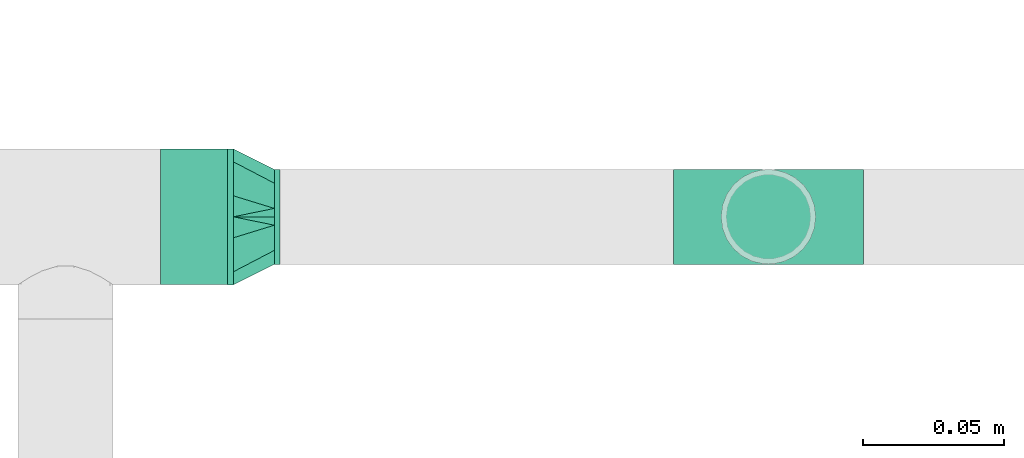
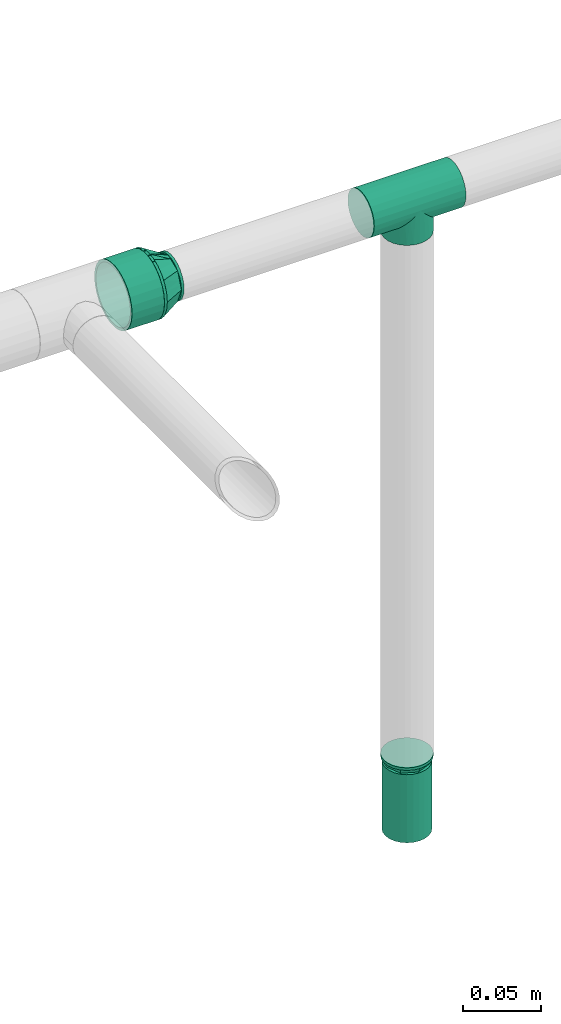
# One storey, part 18 of 45: 3 flow fittings, 1 flow segment, 1 flow terminal.
"""IFC2X3 building model written with IfcOpenShell, lengths in millimetres."""

from ifc_helpers import new_model, entity, si_unit, converted_unit, derived_unit, direction, frame, origin_with_axes, origin_2d_with_axis, place, context, subcontext, project, spatial, hollow_circle, extrude, open_shell, surface_model, source, transform, mapped, type_object, element, save


model = new_model("IFC2X3")

# Units and contexts
model_context = context("Model", 3, precision=0.01, world=frame((0.0, 4.29681676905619e-09, 0.0)), true_north=direction((4.01073788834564e-13, 1.0)))
plan_context = context("Plan", 3, precision=0.01, world=frame((0.0, 4.29681676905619e-09, 0.0)), true_north=direction((4.01073788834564e-13, 1.0)))
body_context = subcontext(model_context, "Body", "Model", "MODEL_VIEW")
ifc_project = project(units=[converted_unit("PLANEANGLEUNIT", "DEGREE", entity("IfcPositiveLengthMeasure", 0.0174532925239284), si_unit("PLANEANGLEUNIT", "RADIAN"), dimensions=[0, 0, 0, 0, 0, 0, 0]), si_unit("AREAUNIT", "SQUARE_METRE"), si_unit("LENGTHUNIT", "METRE", prefix="MILLI"), si_unit("MASSUNIT", "GRAM", prefix="KILO"), si_unit("POWERUNIT", "WATT"), si_unit("PRESSUREUNIT", "PASCAL", prefix="KILO"), si_unit("FORCEUNIT", "NEWTON", prefix="KILO"), si_unit("ELECTRICVOLTAGEUNIT", "VOLT"), si_unit("ELECTRICCURRENTUNIT", "AMPERE"), si_unit("THERMODYNAMICTEMPERATUREUNIT", "DEGREE_CELSIUS"), si_unit("TIMEUNIT", "SECOND"), si_unit("VOLUMEUNIT", "CUBIC_METRE"), derived_unit("LINEARVELOCITYUNIT", [(si_unit("LENGTHUNIT", "METRE"), 1), (si_unit("TIMEUNIT", "SECOND"), -1)]), derived_unit("VOLUMETRICFLOWRATEUNIT", [(si_unit("VOLUMEUNIT", "CUBIC_METRE"), 1), (si_unit("TIMEUNIT", "SECOND"), -1)]), derived_unit("THERMALTRANSMITTANCEUNIT", [(si_unit("POWERUNIT", "WATT"), 1), (si_unit("THERMODYNAMICTEMPERATUREUNIT", "KELVIN"), -1), (si_unit("AREAUNIT", "SQUARE_METRE"), -1)]), derived_unit("SOUNDPRESSUREUNIT", [(si_unit("PRESSUREUNIT", "PASCAL"), 1)])], contexts=[model_context, plan_context])

# Site, building, storey
site_placement = place(None, frame((0.0, -4.29681676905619e-09, 0.0), z_axis=(0.0, 0.0, 1.0), x_axis=(1.0, 0.0, 0.0)))
site = spatial("IfcSite", under=ifc_project, at=site_placement, CompositionType="ELEMENT")
building_placement = place(site_placement, frame((0.0, 4.29681676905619e-09, 0.0), z_axis=(0.0, 0.0, 1.0), x_axis=(1.0, 0.0, 0.0)))
building = spatial("IfcBuilding", under=site, at=building_placement, Name="mc-building", CompositionType="ELEMENT")
storey_placement = place(building_placement, frame((0.0, 0.0, 210200.0), z_axis=(0.0, 0.0, 1.0), x_axis=(1.0, 0.0, 0.0)))
storey = spatial("IfcBuildingStorey", under=building, at=storey_placement, Name="Nivå F - 0,7 m", CompositionType="ELEMENT", Elevation=210200.0)

# Flow fittings
pipe_fitting_type_1 = type_object("IfcPipeFittingType", Name="magi_pipe_fe_tee_centric_90_001", PredefinedType="JUNCTION")
shared_shape_1 = source(origin_with_axes(), body_context, "Body", "SurfaceModel", [
    surface_model("IfcShellBasedSurfaceModel", [(-33.8, 4.37404, -16.32415), (-33.8, 0.0, -16.9), (-33.8, 16.32415, -4.37404), (-33.8, 8.45, -14.63583), (-33.8, 11.9501, -11.9501), (-33.8, 14.63583, -8.45), (-33.8, -16.9, 0.0), (-33.8, -11.9501, -11.9501), (-33.8, -14.63583, -8.45), (-33.8, -8.45, -14.63583), (-33.8, -4.37404, -16.32415), (-33.8, -16.32415, -4.37404), (-33.8, 14.63583, 8.45), (-33.8, 16.32415, 4.37404), (-33.8, -8.45, 14.63583), (-33.8, 8.45, 14.63583), (-33.8, 11.9501, 11.9501), (-33.8, 4.37404, 16.32415), (-33.8, 0.0, 16.9), (-33.8, -11.9501, 11.9501), (-33.8, -14.63583, 8.45), (-33.8, -16.32415, 4.37404), (-33.8, -4.37404, 16.32415), (-33.8, 16.9, 0.0), (33.8, 4.37404, -16.32415), (33.8, -16.9, 0.0), (33.8, 0.0, -16.9), (33.8, 14.63583, -8.45), (33.8, 8.45, -14.63583), (33.8, 16.32415, -4.37404), (33.8, 11.9501, -11.9501), (33.8, -16.32415, 4.37404), (33.8, -8.45, -14.63583), (33.8, -4.37404, -16.32415), (33.8, -11.9501, -11.9501), (33.8, -14.63583, -8.45), (33.8, -16.32415, -4.37404), (33.8, 16.32415, 4.37404), (33.8, 8.45, 14.63583), (33.8, 14.63583, 8.45), (33.8, 11.9501, 11.9501), (33.8, -8.45, 14.63583), (33.8, 4.37404, 16.32415), (33.8, -14.63583, 8.45), (33.8, -11.9501, 11.9501), (33.8, 0.0, 16.9), (33.8, -4.37404, 16.32415), (33.8, 16.9, 0.0), (16.28698, -16.28698, 4.51047), (16.9, -16.9, 0.0), (14.62704, -14.62704, 8.4652), (9.47213, -9.47213, 13.99602), (12.26343, -12.26343, 11.62834), (-16.9, -16.9, 0.0), (-16.28698, -16.28698, 4.51047), (-14.62704, -14.62704, 8.4652), (-12.26343, -12.26343, 11.62834), (-9.47213, -9.47213, 13.99602), (-6.42894, -6.42894, 15.62942), (6.42894, -6.42894, 15.62942), (3.24522, -3.24522, 16.58549), (0.0, 0.0, 16.9), (-3.24522, -3.24522, 16.58549), (3.24522, -3.24522, -16.58549), (0.0, 0.0, -16.9), (-3.24522, -3.24522, -16.58549), (-6.42894, -6.42894, -15.62942), (6.42894, -6.42894, -15.62942), (9.47213, -9.47213, -13.99602), (12.26343, -12.26343, -11.62834), (14.62704, -14.62704, -8.4652), (16.28698, -16.28698, -4.51047), (-9.47213, -9.47213, -13.99602), (-12.26343, -12.26343, -11.62834), (-16.28698, -16.28698, -4.51047), (-14.62704, -14.62704, -8.4652), (4.37404, -25.35, -16.32415), (-16.9, -25.35, 0.0), (0.0, -25.35, -16.9), (14.63583, -25.35, -8.45), (8.45, -25.35, -14.63583), (16.32415, -25.35, -4.37404), (11.9501, -25.35, -11.9501), (-11.9501, -25.35, -11.9501), (-8.45, -25.35, -14.63583), (-4.37404, -25.35, -16.32415), (-14.63583, -25.35, -8.45), (-16.32415, -25.35, -4.37404), (16.9, -25.35, 0.0), (8.45, -25.35, 14.63583), (16.32415, -25.35, 4.37404), (14.63583, -25.35, 8.45), (-8.45, -25.35, 14.63583), (11.9501, -25.35, 11.9501), (4.37404, -25.35, 16.32415), (-16.32415, -25.35, 4.37404), (-11.9501, -25.35, 11.9501), (-14.63583, -25.35, 8.45), (0.0, -25.35, 16.9), (-4.37404, -25.35, 16.32415)], [open_shell([[[0, 1, 2]], [[3, 0, 4]], [[0, 2, 5]], [[4, 0, 5]], [[6, 2, 1]], [[7, 8, 9]], [[1, 10, 9]], [[11, 6, 8]], [[1, 9, 8]], [[1, 8, 6]], [[6, 12, 2]], [[12, 13, 2]], [[14, 12, 6]], [[12, 14, 15]], [[16, 12, 15]], [[17, 15, 18]], [[19, 14, 20]], [[21, 20, 14]], [[22, 18, 14]], [[14, 6, 21]], [[14, 18, 15]], [[23, 2, 13]], [[24, 25, 26]], [[27, 24, 28]], [[27, 29, 24]], [[27, 28, 30]], [[31, 25, 24]], [[26, 32, 33]], [[26, 34, 32]], [[35, 25, 36]], [[35, 34, 26]], [[25, 35, 26]], [[24, 29, 31]], [[29, 37, 38]], [[38, 37, 39]], [[38, 31, 29]], [[38, 39, 40]], [[41, 38, 42]], [[43, 41, 44]], [[41, 43, 31]], [[41, 45, 46]], [[41, 31, 38]], [[42, 45, 41]], [[29, 47, 37]], [[31, 43, 48]], [[25, 31, 49]], [[49, 31, 48]], [[43, 50, 48]], [[44, 41, 51]], [[50, 43, 52]], [[51, 52, 44]], [[52, 43, 44]], [[53, 54, 21]], [[53, 21, 6]], [[21, 54, 20]], [[54, 55, 20]], [[56, 57, 19]], [[19, 20, 56]], [[19, 57, 14]], [[56, 20, 55]], [[14, 57, 58]], [[51, 41, 59]], [[60, 45, 61]], [[59, 46, 60]], [[46, 59, 41]], [[60, 46, 45]], [[61, 45, 42]], [[39, 37, 13]], [[16, 38, 40]], [[12, 40, 39]], [[42, 38, 15]], [[23, 37, 47]], [[62, 61, 18]], [[62, 22, 58]], [[22, 62, 18]], [[58, 22, 14]], [[61, 17, 18]], [[42, 17, 61]], [[15, 17, 42]], [[15, 38, 16]], [[12, 16, 40]], [[13, 12, 39]], [[37, 23, 13]], [[5, 27, 30]], [[23, 47, 29]], [[30, 28, 3]], [[27, 2, 29]], [[26, 33, 63]], [[26, 64, 24]], [[64, 26, 63]], [[28, 24, 0]], [[64, 0, 24]], [[4, 30, 3]], [[2, 27, 5]], [[5, 30, 4]], [[2, 23, 29]], [[65, 66, 10]], [[1, 0, 64]], [[1, 65, 10]], [[66, 9, 10]], [[0, 3, 28]], [[1, 64, 65]], [[63, 33, 67]], [[32, 34, 68]], [[69, 68, 34]], [[35, 70, 69]], [[69, 34, 35]], [[32, 68, 67]], [[36, 25, 49]], [[36, 71, 35]], [[71, 36, 49]], [[35, 71, 70]], [[72, 9, 66]], [[72, 7, 9]], [[7, 72, 73]], [[7, 73, 8]], [[74, 53, 11]], [[75, 74, 8]], [[74, 11, 8]], [[11, 53, 6]], [[75, 8, 73]], [[32, 67, 33]], [[76, 77, 78]], [[79, 76, 80]], [[79, 81, 76]], [[79, 80, 82]], [[77, 76, 81]], [[78, 83, 84]], [[84, 85, 78]], [[86, 77, 87]], [[83, 78, 86]], [[77, 86, 78]], [[81, 88, 77]], [[89, 88, 90]], [[89, 90, 91]], [[92, 77, 89]], [[89, 91, 93]], [[92, 89, 94]], [[95, 96, 97]], [[96, 95, 92]], [[92, 98, 99]], [[95, 77, 92]], [[94, 98, 92]], [[89, 77, 88]], [[77, 95, 53]], [[54, 53, 95]], [[97, 96, 56]], [[96, 92, 57]], [[95, 97, 54]], [[58, 92, 99]], [[55, 54, 97]], [[56, 55, 97]], [[58, 57, 92]], [[98, 61, 62]], [[58, 99, 62]], [[56, 96, 57]], [[62, 99, 98]], [[94, 60, 98]], [[89, 59, 94]], [[91, 90, 48]], [[52, 93, 91]], [[93, 51, 89]], [[49, 90, 88]], [[59, 60, 94]], [[51, 59, 89]], [[49, 48, 90]], [[50, 52, 91]], [[48, 50, 91]], [[51, 93, 52]], [[98, 60, 61]], [[88, 81, 49]], [[71, 49, 81]], [[79, 82, 69]], [[82, 80, 68]], [[81, 79, 71]], [[67, 80, 76]], [[70, 71, 79]], [[69, 70, 79]], [[67, 68, 80]], [[78, 64, 63]], [[67, 76, 63]], [[69, 82, 68]], [[63, 76, 78]], [[85, 65, 78]], [[84, 66, 85]], [[86, 87, 74]], [[86, 73, 83]], [[72, 84, 83]], [[53, 87, 77]], [[66, 65, 85]], [[72, 66, 84]], [[53, 74, 87]], [[75, 73, 86]], [[74, 75, 86]], [[72, 83, 73]], [[78, 65, 64]]])]),
])
flow_fitting_1_placement = place(storey_placement, frame((328564.5461, 461628.40208, 2938.0), z_axis=(0.0, 1.0, 0.0), x_axis=(-1.0, 0.0, 0.0)))
element("IfcFlowFitting", 1, at=flow_fitting_1_placement, inside=storey, type_object=pipe_fitting_type_1, Name="magi_pipe_fe_tee_centric_90_001", context=body_context, shape_type="MappedRepresentation", body=[
    mapped(shared_shape_1, transform((0.0, 0.0, 0.0), scale=1.0)),
])
pipe_fitting_type_2 = type_object("IfcPipeFittingType", Name="magi_pipe_fe_reducer_centric_short_001", PredefinedType="TRANSITION")
shared_shape_2 = source(origin_with_axes(), body_context, "Body", "SurfaceModel", [
    surface_model("IfcShellBasedSurfaceModel", [(-2.0, 0.0, 24.2), (-2.0, 6.26342, 23.37541), (-2.0, 12.1, 20.95781), (-2.0, 17.11198, 17.11198), (-2.0, 24.2, 0.0), (-2.0, 20.95781, 12.1), (-2.0, -23.37541, 6.26342), (-2.0, -17.11198, -17.11198), (-2.0, -6.26342, 23.37541), (-2.0, -17.11198, 17.11198), (-2.0, -12.1, 20.95781), (-2.0, -20.95781, 12.1), (-2.0, -24.2, 0.0), (-2.0, 23.37541, 6.26342), (-2.0, 23.37541, -6.26342), (-2.0, 6.26342, -23.37541), (-2.0, 17.11198, -17.11198), (-2.0, 20.95781, -12.1), (-2.0, 12.1, -20.95781), (-2.0, -23.37541, -6.26342), (-2.0, -20.95781, -12.1), (-2.0, -6.26342, -23.37541), (-2.0, -12.1, -20.95781), (-2.0, 0.0, -24.2), (0.0, 24.2, 0.0), (0.0, 6.26342, -23.37541), (0.0, 12.1, -20.95781), (0.0, 23.37541, -6.26342), (0.0, 17.11198, -17.11198), (0.0, 20.95781, -12.1), (0.0, -24.2, 0.0), (0.0, -12.1, -20.95781), (0.0, -6.26342, -23.37541), (0.0, 0.0, -24.2), (0.0, -17.11198, -17.11198), (0.0, -23.37541, -6.26342), (0.0, -20.95781, -12.1), (0.0, 20.95781, 12.1), (0.0, 17.11198, 17.11198), (0.0, 12.1, 20.95781), (0.0, 6.26342, 23.37541), (0.0, 0.0, 24.2), (0.0, -23.37541, 6.26342), (0.0, -17.11198, 17.11198), (0.0, -20.95781, 12.1), (0.0, -6.26342, 23.37541), (0.0, -12.1, 20.95781), (0.0, 23.37541, 6.26342), (0.0, 7.47821, 23.01557), (0.0, 19.57821, 14.2244), (0.0, -7.47821, 23.01557), (0.0, 7.47821, -23.01557), (0.0, 19.57821, -14.2244), (0.0, -7.47821, -23.01557), (0.0, -19.57821, -14.2244), (16.6, 4.37404, -16.32415), (16.6, 8.45, -14.63583), (16.6, 11.9501, -11.9501), (16.6, 0.0, -16.9), (16.6, 16.32415, -4.37404), (16.6, 16.32415, 4.37404), (16.6, 14.63583, -8.45), (16.6, -8.45, 14.63583), (16.6, -8.45, -14.63583), (16.6, -4.37404, -16.32415), (16.6, -11.9501, -11.9501), (16.6, -16.32415, -4.37404), (16.6, -14.63583, -8.45), (16.6, -16.32415, 4.37404), (16.6, 16.9, 0.0), (16.6, 14.63583, 8.45), (16.6, 11.9501, 11.9501), (16.6, 4.37404, 16.32415), (16.6, 8.45, 14.63583), (16.6, 0.0, 16.9), (16.6, -14.63583, 8.45), (16.6, -16.9, 0.0), (16.6, -11.9501, 11.9501), (16.6, -4.37404, 16.32415), (14.6, 11.9501, 11.9501), (14.6, 0.0, 16.9), (14.6, 4.37404, 16.32415), (14.6, 8.45, 14.63583), (14.6, 14.63583, 8.45), (14.6, 16.32415, 4.37404), (14.6, -16.32415, 4.37404), (14.6, -8.45, -14.63583), (14.6, -8.45, 14.63583), (14.6, -14.63583, 8.45), (14.6, -11.9501, 11.9501), (14.6, -4.37404, 16.32415), (14.6, -16.32415, -4.37404), (14.6, -16.9, 0.0), (14.6, 16.32415, -4.37404), (14.6, 11.9501, -11.9501), (14.6, 14.63583, -8.45), (14.6, 8.45, -14.63583), (14.6, 4.37404, -16.32415), (14.6, 0.0, -16.9), (14.6, -11.9501, -11.9501), (14.6, -14.63583, -8.45), (14.6, -4.37404, -16.32415), (14.6, 16.9, 0.0), (0.0, -19.57821, 14.2244), (14.6, -13.18758, -8.96258), (14.6, 14.42505, -5.97505), (0.0, 21.8891, -7.1122), (0.0, 13.52821, -18.61999), (0.0, 16.55321, -16.42219), (14.6, -14.42505, -5.97505), (0.0, -21.8891, -7.1122), (0.0, -20.73366, -10.6683), (14.6, 5.97505, -14.42505), (0.0, 0.0, -23.01557), (14.6, -2.98753, -15.66253), (14.6, 2.98753, -15.66253), (14.6, 8.96258, -13.18758), (14.6, 15.66253, -2.98753), (14.6, -15.66253, -2.98753), (0.0, -13.52821, -18.61999), (14.6, -5.97505, -14.42505), (14.6, -8.96258, -13.18758), (14.6, 13.18758, -8.96258), (14.6, 13.18758, 8.96258), (14.6, -14.42505, 5.97505), (0.0, -21.8891, 7.1122), (0.0, -13.52821, 18.61999), (0.0, -16.55321, 16.42219), (14.6, 14.42505, 5.97505), (0.0, 21.8891, 7.1122), (0.0, 20.73366, 10.6683), (14.6, -5.97505, 14.42505), (0.0, 0.0, 23.01557), (14.6, 2.98753, 15.66253), (14.6, -2.98753, 15.66253), (14.6, -8.96258, 13.18758), (14.6, -15.66253, 2.98753), (14.6, 15.66253, 2.98753), (0.0, 13.52821, 18.61999), (14.6, 5.97505, 14.42505), (14.6, 8.96258, 13.18758), (14.6, -13.18758, 8.96258)], [open_shell([[[0, 1, 2]], [[0, 2, 3]], [[4, 3, 5]], [[6, 0, 7]], [[0, 3, 7]], [[8, 9, 10]], [[8, 0, 9]], [[9, 6, 11]], [[0, 6, 9]], [[6, 7, 12]], [[4, 5, 13]], [[3, 14, 15]], [[16, 14, 17]], [[18, 15, 14]], [[18, 14, 16]], [[15, 7, 3]], [[19, 7, 20]], [[12, 7, 19]], [[15, 21, 22]], [[22, 7, 15]], [[21, 15, 23]], [[14, 3, 4]], [[24, 25, 26]], [[27, 26, 28]], [[27, 24, 26]], [[27, 28, 29]], [[25, 30, 31]], [[25, 32, 33]], [[25, 31, 32]], [[34, 35, 36]], [[34, 31, 30]], [[34, 30, 35]], [[25, 24, 37]], [[37, 38, 25]], [[25, 38, 30]], [[39, 40, 41]], [[39, 41, 38]], [[30, 38, 41]], [[42, 43, 44]], [[45, 42, 30]], [[43, 45, 46]], [[45, 43, 42]], [[30, 41, 45]], [[24, 47, 37]], [[19, 35, 12]], [[20, 36, 19]], [[31, 7, 22]], [[20, 7, 34]], [[32, 22, 21]], [[19, 36, 35]], [[35, 30, 12]], [[32, 31, 22]], [[34, 7, 31]], [[34, 36, 20]], [[33, 32, 21]], [[21, 23, 33]], [[15, 25, 23]], [[18, 26, 15]], [[29, 16, 17]], [[18, 16, 28]], [[27, 17, 14]], [[18, 28, 26]], [[26, 25, 15]], [[24, 27, 14]], [[29, 17, 27]], [[29, 28, 16]], [[4, 24, 14]], [[23, 25, 33]], [[13, 47, 4]], [[5, 37, 13]], [[39, 3, 2]], [[5, 3, 38]], [[40, 2, 1]], [[13, 37, 47]], [[47, 24, 4]], [[40, 39, 2]], [[38, 3, 39]], [[38, 37, 5]], [[41, 40, 1]], [[1, 0, 41]], [[8, 45, 0]], [[10, 46, 8]], [[44, 9, 11]], [[10, 9, 43]], [[42, 11, 6]], [[10, 43, 46]], [[46, 45, 8]], [[30, 42, 6]], [[44, 11, 42]], [[44, 43, 9]], [[12, 30, 6]], [[0, 45, 41]], [[48, 49, 50]], [[49, 51, 30]], [[52, 51, 49]], [[30, 53, 54]], [[30, 51, 53]], [[49, 24, 52]], [[55, 56, 57]], [[58, 55, 57]], [[57, 59, 60]], [[59, 57, 61]], [[57, 62, 63]], [[58, 63, 64]], [[58, 57, 63]], [[65, 66, 67]], [[66, 65, 63]], [[63, 68, 66]], [[60, 59, 69]], [[60, 70, 71]], [[60, 71, 72]], [[60, 72, 62]], [[72, 71, 73]], [[62, 72, 74]], [[68, 62, 75]], [[76, 66, 68]], [[75, 62, 77]], [[62, 68, 63]], [[74, 78, 62]], [[57, 60, 62]], [[79, 80, 81]], [[79, 81, 82]], [[79, 83, 84]], [[79, 84, 80]], [[85, 80, 86]], [[87, 88, 89]], [[88, 87, 90]], [[80, 88, 90]], [[80, 85, 88]], [[85, 91, 92]], [[86, 80, 84]], [[84, 93, 94]], [[94, 93, 95]], [[94, 96, 97]], [[86, 84, 94]], [[97, 98, 94]], [[91, 99, 100]], [[99, 91, 86]], [[86, 98, 101]], [[91, 85, 86]], [[94, 98, 86]], [[93, 84, 102]], [[91, 66, 92]], [[100, 67, 91]], [[63, 99, 86]], [[100, 99, 65]], [[64, 86, 101]], [[91, 67, 66]], [[66, 76, 92]], [[64, 63, 86]], [[65, 99, 63]], [[65, 67, 100]], [[58, 64, 101]], [[101, 98, 58]], [[97, 55, 98]], [[96, 56, 97]], [[61, 94, 95]], [[96, 94, 57]], [[59, 95, 93]], [[96, 57, 56]], [[56, 55, 97]], [[69, 59, 93]], [[61, 95, 59]], [[61, 57, 94]], [[102, 69, 93]], [[98, 55, 58]], [[84, 60, 102]], [[83, 70, 84]], [[73, 79, 82]], [[83, 79, 71]], [[72, 82, 81]], [[84, 70, 60]], [[60, 69, 102]], [[72, 73, 82]], [[71, 79, 73]], [[71, 70, 83]], [[74, 72, 81]], [[81, 80, 74]], [[90, 78, 80]], [[87, 62, 90]], [[75, 89, 88]], [[87, 89, 77]], [[68, 88, 85]], [[87, 77, 62]], [[62, 78, 90]], [[76, 68, 85]], [[75, 88, 68]], [[75, 77, 89]], [[92, 76, 85]], [[80, 78, 74]], [[80, 89, 102]], [[102, 79, 80]], [[89, 99, 102]], [[98, 102, 99]], [[94, 102, 98]], [[99, 89, 92]], [[50, 30, 103]], [[30, 50, 49]], [[54, 99, 104]], [[105, 52, 106]], [[94, 107, 108]], [[109, 110, 111]], [[51, 107, 112]], [[113, 114, 53]], [[113, 115, 98]], [[116, 112, 107]], [[24, 117, 106]], [[51, 115, 113]], [[30, 118, 92]], [[99, 54, 119]], [[119, 120, 121]], [[30, 110, 118]], [[117, 24, 102]], [[52, 105, 122]], [[114, 120, 53]], [[114, 113, 98]], [[51, 112, 115]], [[94, 108, 52]], [[109, 118, 110]], [[54, 104, 111]], [[104, 109, 111]], [[94, 52, 122]], [[120, 119, 53]], [[121, 99, 119]], [[117, 105, 106]], [[107, 94, 116]], [[49, 79, 123]], [[124, 103, 125]], [[89, 126, 127]], [[128, 129, 130]], [[50, 126, 131]], [[132, 133, 48]], [[132, 134, 80]], [[135, 131, 126]], [[30, 136, 125]], [[50, 134, 132]], [[24, 137, 102]], [[79, 49, 138]], [[138, 139, 140]], [[24, 129, 137]], [[136, 30, 92]], [[103, 124, 141]], [[133, 139, 48]], [[133, 132, 80]], [[50, 131, 134]], [[89, 127, 103]], [[128, 137, 129]], [[49, 123, 130]], [[123, 128, 130]], [[89, 103, 141]], [[139, 138, 48]], [[140, 79, 138]], [[136, 124, 125]], [[126, 89, 135]]])]),
])
flow_fitting_2_placement = place(storey_placement, frame((328374.17326, 461628.40208, 2938.0), z_axis=(0.0, 0.0, 1.0), x_axis=(1.0, 0.0, 0.0)))
element("IfcFlowFitting", 2, at=flow_fitting_2_placement, inside=storey, type_object=pipe_fitting_type_2, Name="magi_pipe_fe_reducer_centric_short_001", context=body_context, shape_type="MappedRepresentation", body=[
    mapped(shared_shape_2, transform((0.0, 0.0, 0.0), scale=1.0)),
])
shared_shape_3 = source(origin_with_axes(), body_context, "Body", "SurfaceModel", [
    surface_model("IfcShellBasedSurfaceModel", [(9.0, 4.37404, -16.32415), (9.0, 8.45, -14.63583), (9.0, 11.9501, -11.9501), (9.0, 0.0, -16.9), (9.0, 16.32415, -4.37404), (9.0, 16.32415, 4.37404), (9.0, 14.63583, -8.45), (9.0, -8.45, -14.63583), (9.0, -4.37404, -16.32415), (9.0, -11.9501, -11.9501), (9.0, -16.32415, -4.37404), (9.0, -14.63583, -8.45), (9.0, -16.32415, 4.37404), (9.0, 16.9, 0.0), (9.0, 14.63583, 8.45), (9.0, 11.9501, 11.9501), (9.0, 4.37404, 16.32415), (9.0, 0.0, 16.9), (9.0, 8.45, 14.63583), (9.0, -14.63583, 8.45), (9.0, -16.9, 0.0), (9.0, -8.45, 14.63583), (9.0, -11.9501, 11.9501), (9.0, -4.37404, 16.32415), (7.0, 4.37404, 16.32415), (7.0, -14.63583, 8.45), (7.0, 0.0, 16.9), (7.0, 16.32415, 4.37404), (7.0, 8.45, 14.63583), (7.0, 11.9501, 11.9501), (7.0, 14.63583, 8.45), (7.0, -8.45, 14.63583), (7.0, -11.9501, 11.9501), (7.0, -4.37404, 16.32415), (7.0, -16.32415, 4.37404), (7.0, -16.32415, -4.37404), (7.0, -16.9, 0.0), (7.0, -8.45, -14.63583), (7.0, 16.32415, -4.37404), (7.0, 11.9501, -11.9501), (7.0, 14.63583, -8.45), (7.0, 8.45, -14.63583), (7.0, 4.37404, -16.32415), (7.0, 0.0, -16.9), (7.0, -11.9501, -11.9501), (7.0, -14.63583, -8.45), (7.0, -4.37404, -16.32415), (7.0, 16.9, 0.0), (-2.0, -9.47523, 9.47523), (-2.0, 0.0, 13.4), (-2.0, 3.46818, 12.94341), (-2.0, 6.7, 11.60474), (-2.0, 9.47523, 9.47523), (-2.0, 11.60474, 6.7), (-2.0, 12.94341, 3.46818), (-2.0, -3.46818, 12.94341), (-2.0, -6.7, 11.60474), (-2.0, -12.94341, 3.46818), (-2.0, -11.60474, 6.7), (-2.0, -6.7, -11.60474), (-2.0, -12.94341, -3.46818), (-2.0, -13.4, 0.0), (-2.0, 12.94341, -3.46818), (-2.0, 6.7, -11.60474), (-2.0, 9.47523, -9.47523), (-2.0, 11.60474, -6.7), (-2.0, 3.46818, -12.94341), (-2.0, 0.0, -13.4), (-2.0, -9.47523, -9.47523), (-2.0, -11.60474, -6.7), (-2.0, -3.46818, -12.94341), (-2.0, 13.4, 0.0), (0.0, 12.94341, -3.46818), (0.0, 3.46818, -12.94341), (0.0, 6.7, -11.60474), (0.0, 11.60474, -6.7), (0.0, 9.47523, -9.47523), (0.0, -6.7, -11.60474), (0.0, -12.94341, 3.46818), (0.0, -3.46818, -12.94341), (0.0, 0.0, -13.4), (0.0, -9.47523, -9.47523), (0.0, -12.94341, -3.46818), (0.0, -11.60474, -6.7), (0.0, 13.4, 0.0), (0.0, 12.94341, 3.46818), (0.0, 11.60474, 6.7), (0.0, 9.47523, 9.47523), (0.0, 0.0, 13.4), (0.0, 6.7, 11.60474), (0.0, 3.46818, 12.94341), (0.0, -9.47523, 9.47523), (0.0, -11.60474, 6.7), (0.0, -13.4, 0.0), (0.0, -3.46818, 12.94341), (0.0, -6.7, 11.60474), (7.0, -14.51228, -5.76448), (0.0, -11.43761, -4.73762), (7.0, -13.23119, -8.85729), (0.0, -10.45642, -7.10642), (0.0, -12.41881, -2.36881), (7.0, -15.70614, -2.88224), (0.0, -2.36881, -12.41881), (7.0, -5.97505, -14.42505), (0.0, -7.10642, -10.45642), (0.0, -4.73762, -11.43761), (7.0, -2.98753, -15.66253), (7.0, -8.96258, -13.18758), (7.0, 2.98753, -15.66253), (0.0, 2.36881, -12.41881), (0.0, 12.45339, -2.28533), (7.0, 13.18758, -8.96258), (0.0, 10.45642, -7.10642), (7.0, 14.42505, -5.97505), (0.0, 11.43761, -4.73762), (0.0, 7.10642, -10.45642), (7.0, 8.96258, -13.18758), (7.0, 15.66253, -2.98753), (0.0, 4.73762, -11.43761), (7.0, 5.97505, -14.42505), (7.0, 14.51228, 5.76448), (0.0, 11.43761, 4.73762), (7.0, 13.23119, 8.85729), (0.0, 10.45642, 7.10642), (0.0, 12.41881, 2.36881), (7.0, 15.70614, 2.88224), (0.0, 2.36881, 12.41881), (7.0, 5.97505, 14.42505), (0.0, 7.10642, 10.45642), (0.0, 4.73762, 11.43761), (7.0, 2.98753, 15.66253), (7.0, 8.96258, 13.18758), (7.0, -2.98753, 15.66253), (0.0, -2.36881, 12.41881), (0.0, -12.45339, 2.28533), (7.0, -13.18758, 8.96258), (0.0, -10.45642, 7.10642), (7.0, -14.42505, 5.97505), (0.0, -11.43761, 4.73762), (0.0, -7.10642, 10.45642), (7.0, -8.96258, 13.18758), (7.0, -15.66253, 2.98753), (0.0, -4.73762, 11.43761), (7.0, -5.97505, 14.42505)], [open_shell([[[0, 1, 2]], [[3, 0, 2]], [[2, 4, 5]], [[4, 2, 6]], [[2, 5, 7]], [[3, 7, 8]], [[3, 2, 7]], [[9, 10, 11]], [[10, 9, 7]], [[7, 12, 10]], [[5, 4, 13]], [[5, 14, 15]], [[5, 15, 16]], [[16, 17, 5]], [[16, 15, 18]], [[5, 17, 19]], [[5, 19, 12]], [[20, 10, 12]], [[19, 21, 22]], [[19, 17, 21]], [[21, 17, 23]], [[12, 7, 5]], [[24, 25, 26]], [[27, 24, 28]], [[29, 30, 27]], [[29, 27, 28]], [[25, 24, 27]], [[31, 25, 32]], [[25, 31, 33]], [[26, 25, 33]], [[27, 34, 25]], [[34, 35, 36]], [[34, 27, 37]], [[27, 38, 39]], [[39, 38, 40]], [[39, 41, 42]], [[37, 27, 39]], [[42, 43, 39]], [[35, 44, 45]], [[44, 35, 37]], [[37, 43, 46]], [[35, 34, 37]], [[39, 43, 37]], [[38, 27, 47]], [[35, 10, 36]], [[45, 11, 35]], [[7, 44, 37]], [[45, 44, 9]], [[8, 37, 46]], [[35, 11, 10]], [[10, 20, 36]], [[8, 7, 37]], [[9, 44, 7]], [[9, 11, 45]], [[3, 8, 46]], [[46, 43, 3]], [[42, 0, 43]], [[41, 1, 42]], [[6, 39, 40]], [[41, 39, 2]], [[4, 40, 38]], [[41, 2, 1]], [[1, 0, 42]], [[13, 4, 38]], [[6, 40, 4]], [[6, 2, 39]], [[47, 13, 38]], [[43, 0, 3]], [[27, 5, 47]], [[30, 14, 27]], [[18, 29, 28]], [[30, 29, 15]], [[16, 28, 24]], [[27, 14, 5]], [[5, 13, 47]], [[16, 18, 28]], [[15, 29, 18]], [[15, 14, 30]], [[17, 16, 24]], [[24, 26, 17]], [[33, 23, 26]], [[31, 21, 33]], [[19, 32, 25]], [[31, 32, 22]], [[12, 25, 34]], [[31, 22, 21]], [[21, 23, 33]], [[20, 12, 34]], [[19, 25, 12]], [[19, 22, 32]], [[36, 20, 34]], [[26, 23, 17]], [[48, 49, 50]], [[51, 48, 50]], [[52, 53, 54]], [[52, 54, 51]], [[48, 51, 54]], [[55, 48, 56]], [[55, 49, 48]], [[48, 57, 58]], [[48, 59, 57]], [[57, 60, 61]], [[62, 48, 54]], [[48, 62, 63]], [[64, 62, 65]], [[66, 48, 63]], [[63, 62, 64]], [[66, 67, 48]], [[60, 68, 69]], [[60, 57, 68]], [[70, 59, 48]], [[57, 59, 68]], [[70, 48, 67]], [[71, 62, 54]], [[72, 73, 74]], [[75, 74, 76]], [[77, 73, 78]], [[72, 74, 75]], [[73, 72, 78]], [[73, 79, 80]], [[73, 77, 79]], [[81, 82, 83]], [[78, 82, 81]], [[81, 77, 78]], [[72, 84, 78]], [[85, 86, 87]], [[85, 87, 88]], [[89, 90, 88]], [[89, 88, 87]], [[85, 88, 91]], [[78, 91, 92]], [[93, 82, 78]], [[91, 94, 95]], [[91, 78, 85]], [[94, 91, 88]], [[78, 84, 85]], [[60, 82, 61]], [[69, 83, 60]], [[77, 68, 59]], [[69, 68, 81]], [[79, 59, 70]], [[60, 83, 82]], [[82, 93, 61]], [[79, 77, 59]], [[81, 68, 77]], [[81, 83, 69]], [[80, 79, 70]], [[70, 67, 80]], [[66, 73, 67]], [[63, 74, 66]], [[75, 64, 65]], [[63, 64, 76]], [[72, 65, 62]], [[63, 76, 74]], [[74, 73, 66]], [[84, 72, 62]], [[75, 65, 72]], [[75, 76, 64]], [[71, 84, 62]], [[67, 73, 80]], [[54, 85, 71]], [[53, 86, 54]], [[89, 52, 51]], [[53, 52, 87]], [[90, 51, 50]], [[54, 86, 85]], [[85, 84, 71]], [[90, 89, 51]], [[87, 52, 89]], [[87, 86, 53]], [[88, 90, 50]], [[50, 49, 88]], [[55, 94, 49]], [[56, 95, 55]], [[92, 48, 58]], [[56, 48, 91]], [[78, 58, 57]], [[56, 91, 95]], [[95, 94, 55]], [[93, 78, 57]], [[92, 58, 78]], [[92, 91, 48]], [[61, 93, 57]], [[49, 94, 88]], [[36, 29, 26]], [[39, 47, 29]], [[26, 32, 36]], [[36, 44, 43]], [[43, 39, 36]], [[36, 39, 29]], [[81, 91, 88]], [[81, 93, 91]], [[88, 87, 84]], [[84, 76, 81]], [[80, 81, 76]], [[84, 81, 88]], [[96, 97, 98]], [[81, 44, 99]], [[100, 96, 101]], [[102, 80, 43]], [[103, 104, 105]], [[102, 43, 106]], [[107, 81, 104]], [[108, 80, 109]], [[110, 84, 47]], [[93, 101, 36]], [[108, 43, 80]], [[111, 76, 112]], [[113, 112, 114]], [[115, 39, 116]], [[110, 47, 117]], [[99, 98, 97]], [[117, 113, 114]], [[106, 103, 105]], [[118, 116, 119]], [[109, 118, 119]], [[96, 100, 97]], [[93, 100, 101]], [[99, 44, 98]], [[104, 103, 107]], [[107, 44, 81]], [[106, 105, 102]], [[112, 113, 111]], [[111, 39, 76]], [[117, 114, 110]], [[116, 118, 115]], [[115, 76, 39]], [[109, 119, 108]], [[120, 121, 122]], [[87, 29, 123]], [[124, 120, 125]], [[126, 88, 26]], [[127, 128, 129]], [[126, 26, 130]], [[131, 87, 128]], [[132, 88, 133]], [[134, 93, 36]], [[84, 125, 47]], [[132, 26, 88]], [[135, 91, 136]], [[137, 136, 138]], [[139, 32, 140]], [[134, 36, 141]], [[123, 122, 121]], [[141, 137, 138]], [[130, 127, 129]], [[142, 140, 143]], [[133, 142, 143]], [[120, 124, 121]], [[84, 124, 125]], [[123, 29, 122]], [[128, 127, 131]], [[131, 29, 87]], [[130, 129, 126]], [[136, 137, 135]], [[135, 32, 91]], [[141, 138, 134]], [[140, 142, 139]], [[139, 91, 32]], [[133, 143, 132]]])]),
])
flow_fitting_3_placement = place(storey_placement, frame((328564.5461, 461628.40208, 2496.95199999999), z_axis=(0.0, 1.0, 0.0), x_axis=(0.0, 0.0, 1.0)))
element("IfcFlowFitting", 3, at=flow_fitting_3_placement, inside=storey, type_object=pipe_fitting_type_2, Name="magi_pipe_fe_reducer_centric_short_001", context=body_context, shape_type="MappedRepresentation", body=[
    mapped(shared_shape_3, transform((0.0, 0.0, 0.0), scale=1.0)),
])

# Flow segment
pipe_segment_type = type_object("IfcPipeSegmentType", Name="Stålrør normaltykke", PredefinedType="RIGIDSEGMENT")
shared_shape_4 = source(origin_with_axes(), body_context, "Body", "SweptSolid", [
    extrude(hollow_circle(Radius=24.1, WallThickness=2.0, at=origin_2d_with_axis()), frame((0.0, 0.0, 0.0), z_axis=(1.0, 0.0, 0.0), x_axis=(0.0, 1.0, 0.0)), (0.0, 0.0, 1.0), 25.9),
])
flow_segment_placement = place(storey_placement, frame((328348.3, 461628.40208, 2938.0), z_axis=(0.0, 0.0, 1.0), x_axis=(1.0, 0.0, 0.0)))
element("IfcFlowSegment", 4, at=flow_segment_placement, inside=storey, type_object=pipe_segment_type, Name="Stålrør normaltykke", context=body_context, shape_type="MappedRepresentation", body=[
    mapped(shared_shape_4, transform((0.0, 0.0, 0.0), scale=1.0)),
])

# Flow terminal
fire_suppression_terminal_type = type_object("IfcFireSuppressionTerminalType", Name="SP-15-K80-68DGR-STD-HIMLING", PredefinedType="NOTDEFINED")
shared_shape_5 = source(origin_with_axes(), body_context, "Body", "SurfaceModel", [
    surface_model("IfcShellBasedSurfaceModel", [(4.1411, -15.45481, 53.0), (8.0, -13.85641, 53.0), (11.31371, -11.31371, 53.0), (-8.0, -13.85641, 53.0), (15.45481, -4.1411, 53.0), (16.0, 0.0, 53.0), (13.85641, -8.0, 53.0), (0.0, -16.0, 53.0), (-4.1411, -15.45481, 53.0), (-13.85641, -8.0, 53.0), (-11.31371, -11.31371, 53.0), (-15.45481, -4.1411, 53.0), (15.45481, 4.1411, 53.0), (13.85641, 8.0, 53.0), (11.31371, 11.31371, 53.0), (-4.1411, 15.45481, 53.0), (8.0, 13.85641, 53.0), (4.1411, 15.45481, 53.0), (0.0, 16.0, 53.0), (-13.85641, 8.0, 53.0), (-15.45481, 4.1411, 53.0), (-16.0, 0.0, 53.0), (-11.31371, 11.31371, 53.0), (-8.0, 13.85641, 53.0), (0.0, 16.0, 0.0), (4.1411, 15.45481, 0.0), (8.0, 13.85641, 0.0), (-4.1411, 15.45481, 0.0), (11.31371, 11.31371, 0.0), (13.85641, 8.0, 0.0), (15.45481, 4.1411, 0.0), (-15.45481, -4.1411, 0.0), (-11.31371, 11.31371, 0.0), (-8.0, 13.85641, 0.0), (-13.85641, 8.0, 0.0), (-15.45481, 4.1411, 0.0), (-16.0, 0.0, 0.0), (4.1411, -15.45481, 0.0), (16.0, 0.0, 0.0), (15.45481, -4.1411, 0.0), (13.85641, -8.0, 0.0), (11.31371, -11.31371, 0.0), (8.0, -13.85641, 0.0), (-8.0, -13.85641, 0.0), (-13.85641, -8.0, 0.0), (-11.31371, -11.31371, 0.0), (0.0, -16.0, 0.0), (-4.1411, -15.45481, 0.0)], [open_shell([[[0, 1, 2]], [[3, 0, 2]], [[4, 5, 2]], [[4, 2, 6]], [[3, 2, 5]], [[7, 3, 8]], [[7, 0, 3]], [[3, 9, 10]], [[9, 3, 11]], [[5, 11, 3]], [[5, 12, 11]], [[12, 13, 14]], [[15, 12, 14]], [[16, 17, 18]], [[14, 16, 15]], [[18, 15, 16]], [[11, 19, 20]], [[21, 11, 20]], [[22, 15, 23]], [[15, 22, 19]], [[19, 11, 15]], [[11, 12, 15]], [[24, 25, 26]], [[27, 24, 26]], [[28, 29, 30]], [[27, 26, 28]], [[27, 28, 31]], [[27, 32, 33]], [[32, 27, 34]], [[34, 31, 35]], [[31, 34, 27]], [[35, 31, 36]], [[28, 30, 31]], [[37, 38, 39]], [[37, 39, 40]], [[41, 42, 37]], [[41, 37, 40]], [[38, 37, 43]], [[44, 43, 45]], [[43, 44, 31]], [[43, 46, 47]], [[43, 31, 38]], [[37, 46, 43]], [[38, 31, 30]], [[11, 31, 44]], [[45, 9, 44]], [[3, 43, 47]], [[45, 43, 10]], [[8, 47, 46]], [[31, 21, 36]], [[31, 11, 21]], [[44, 9, 11]], [[45, 10, 9]], [[3, 10, 43]], [[47, 8, 3]], [[46, 7, 8]], [[0, 37, 42]], [[41, 1, 42]], [[6, 40, 39]], [[41, 40, 2]], [[4, 39, 38]], [[37, 0, 7]], [[42, 1, 0]], [[41, 2, 1]], [[40, 6, 2]], [[4, 6, 39]], [[38, 5, 4]], [[37, 7, 46]], [[12, 38, 30]], [[13, 30, 29]], [[16, 26, 25]], [[17, 25, 24]], [[30, 13, 12]], [[12, 5, 38]], [[28, 14, 13]], [[28, 26, 14]], [[14, 26, 16]], [[25, 17, 16]], [[28, 13, 29]], [[24, 18, 17]], [[15, 27, 33]], [[32, 23, 33]], [[19, 34, 35]], [[32, 34, 22]], [[20, 35, 36]], [[27, 15, 18]], [[33, 23, 15]], [[32, 22, 23]], [[34, 19, 22]], [[20, 19, 35]], [[36, 21, 20]], [[27, 18, 24]]])]),
])
flow_terminal_placement = place(storey_placement, frame((328564.5461, 461628.40208, 2500.0), z_axis=(0.0, 0.0, -1.0), x_axis=(-1.0, 0.0, 0.0)))
element("IfcFlowTerminal", 5, at=flow_terminal_placement, inside=storey, type_object=fire_suppression_terminal_type, Name="SP-15-K80-68DGR-STD-HIMLING", context=body_context, shape_type="MappedRepresentation", body=[
    mapped(shared_shape_5, transform((0.0, 0.0, 0.0), scale=1.0)),
])

save(model, "model.ifc")
